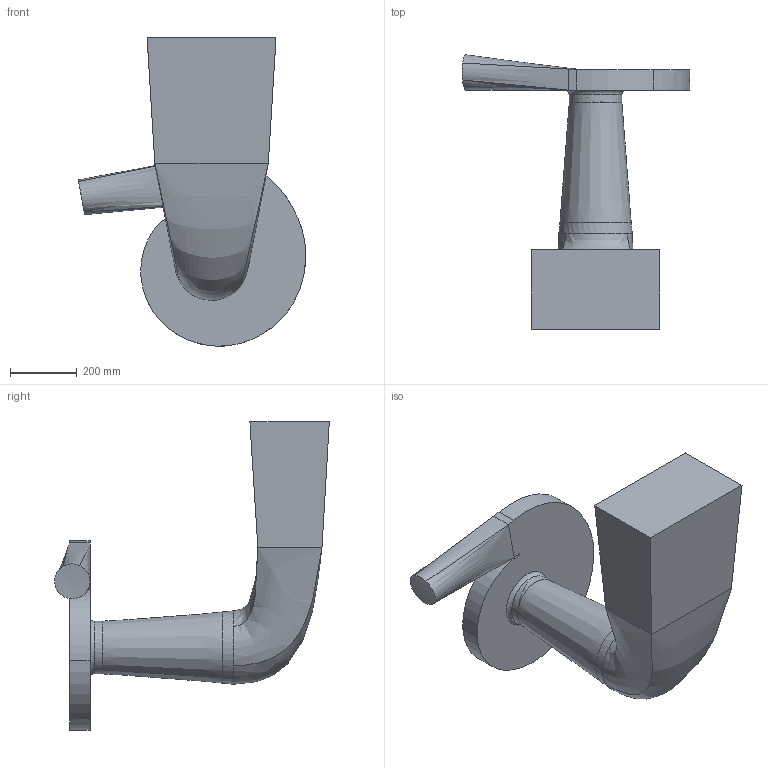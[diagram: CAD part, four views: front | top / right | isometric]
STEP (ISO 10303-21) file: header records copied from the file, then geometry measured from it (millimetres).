
FILE_DESCRIPTION(('Open CASCADE Model'),'2;1');
FILE_NAME('Open CASCADE Shape Model','2016-11-28T20:09:35',('Author'),( 'Open CASCADE'),'Open CASCADE STEP processor 6.9','Open CASCADE 6.9' ,'Unknown');
FILE_SCHEMA(('AUTOMOTIVE_DESIGN { 1 0 10303 214 1 1 1 1 }'));
Products named in the file (1): Open CASCADE STEP translator 6.9 1
Bounding box: 681.44 x 822.66 x 923.59 mm (x, y, z)
Surface area: 1781207.3 mm2 (no closed solid volume)
Topology: 0 solids, 1 shells, 121 faces, 308 edges, 185 vertices
Faces by surface type: bspline 89, plane 17, cylinder 6, extrusion 4, revolution 3, cone 1, torus 1
Full cylindrical faces by diameter (mm): 50 x1, 158.025 x1
Entity records: 81306 total; most frequent: CARTESIAN_POINT 76780, B_SPLINE_CURVE_WITH_KNOTS 724, ORIENTED_EDGE 612, PCURVE 612, DEFINITIONAL_REPRESENTATION 612, EDGE_CURVE 306, DIRECTION 305, SURFACE_CURVE 301
